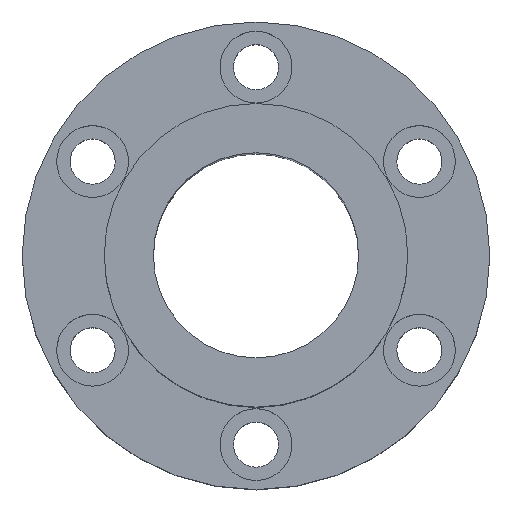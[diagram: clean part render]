
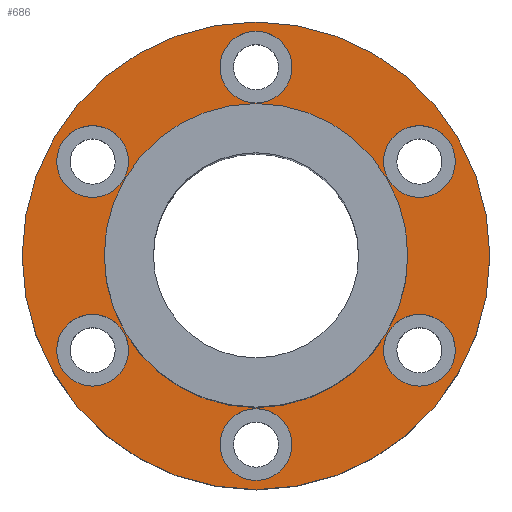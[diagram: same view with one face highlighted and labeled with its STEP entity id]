
A CAD part, top view. The second image highlights one B-rep face of the part: STEP entity #686.
In plain terms, the highlighted planar face has unit normal (0, 0, 1).
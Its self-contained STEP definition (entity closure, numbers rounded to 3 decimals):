
#1=CARTESIAN_POINT('',(0.,0.,22.5));
#2=DIRECTION('',(0.,0.,1.));
#3=DIRECTION('',(1.,0.,0.));
#4=AXIS2_PLACEMENT_3D('',#1,#2,#3);
#6=CARTESIAN_POINT('',(0.,0.,22.5));
#7=DIRECTION('',(0.,0.,1.));
#8=DIRECTION('',(-1.,0.,0.));
#9=AXIS2_PLACEMENT_3D('',#6,#7,#8);
#11=CARTESIAN_POINT('',(39.837,-23.,22.5));
#12=DIRECTION('',(0.,0.,-1.));
#13=DIRECTION('',(-0.5,-0.866,0.));
#14=AXIS2_PLACEMENT_3D('',#11,#12,#13);
#16=CARTESIAN_POINT('',(39.837,-23.,22.5));
#17=DIRECTION('',(0.,0.,-1.));
#18=DIRECTION('',(0.5,0.866,0.));
#19=AXIS2_PLACEMENT_3D('',#16,#17,#18);
#21=CARTESIAN_POINT('',(-39.837,-23.,22.5));
#22=DIRECTION('',(0.,0.,-1.));
#23=DIRECTION('',(-0.5,0.866,0.));
#24=AXIS2_PLACEMENT_3D('',#21,#22,#23);
#26=CARTESIAN_POINT('',(-39.837,-23.,22.5));
#27=DIRECTION('',(0.,0.,-1.));
#28=DIRECTION('',(0.5,-0.866,0.));
#29=AXIS2_PLACEMENT_3D('',#26,#27,#28);
#31=CARTESIAN_POINT('',(0.,46.,22.5));
#32=DIRECTION('',(0.,0.,-1.));
#33=DIRECTION('',(1.,0.,0.));
#34=AXIS2_PLACEMENT_3D('',#31,#32,#33);
#36=CARTESIAN_POINT('',(0.,46.,22.5));
#37=DIRECTION('',(0.,0.,-1.));
#38=DIRECTION('',(-1.,0.,0.));
#39=AXIS2_PLACEMENT_3D('',#36,#37,#38);
#41=CARTESIAN_POINT('',(0.,0.,22.5));
#42=DIRECTION('',(0.,0.,-1.));
#43=DIRECTION('',(1.,0.,0.));
#44=AXIS2_PLACEMENT_3D('',#41,#42,#43);
#46=CARTESIAN_POINT('',(0.,0.,22.5));
#47=DIRECTION('',(0.,0.,-1.));
#48=DIRECTION('',(-1.,0.,0.));
#49=AXIS2_PLACEMENT_3D('',#46,#47,#48);
#51=CARTESIAN_POINT('',(-39.837,23.,22.5));
#52=DIRECTION('',(0.,0.,-1.));
#53=DIRECTION('',(0.5,0.866,0.));
#54=AXIS2_PLACEMENT_3D('',#51,#52,#53);
#56=CARTESIAN_POINT('',(-39.837,23.,22.5));
#57=DIRECTION('',(0.,0.,-1.));
#58=DIRECTION('',(-0.5,-0.866,0.));
#59=AXIS2_PLACEMENT_3D('',#56,#57,#58);
#61=CARTESIAN_POINT('',(0.,-46.,22.5));
#62=DIRECTION('',(0.,0.,-1.));
#63=DIRECTION('',(-1.,0.,0.));
#64=AXIS2_PLACEMENT_3D('',#61,#62,#63);
#66=CARTESIAN_POINT('',(0.,-46.,22.5));
#67=DIRECTION('',(0.,0.,-1.));
#68=DIRECTION('',(1.,0.,0.));
#69=AXIS2_PLACEMENT_3D('',#66,#67,#68);
#71=CARTESIAN_POINT('',(39.837,23.,22.5));
#72=DIRECTION('',(0.,0.,-1.));
#73=DIRECTION('',(0.5,-0.866,0.));
#74=AXIS2_PLACEMENT_3D('',#71,#72,#73);
#76=CARTESIAN_POINT('',(39.837,23.,22.5));
#77=DIRECTION('',(0.,0.,-1.));
#78=DIRECTION('',(-0.5,0.866,0.));
#79=AXIS2_PLACEMENT_3D('',#76,#77,#78);
#561=CARTESIAN_POINT('',(-57.,0.,22.5));
#563=VERTEX_POINT('',#561);
#565=CARTESIAN_POINT('',(57.,0.,22.5));
#567=VERTEX_POINT('',#565);
#569=CARTESIAN_POINT('',(8.75,46.,22.5));
#571=VERTEX_POINT('',#569);
#573=CARTESIAN_POINT('',(-8.75,46.,22.5));
#575=VERTEX_POINT('',#573);
#577=CARTESIAN_POINT('',(-35.462,30.578,22.5));
#579=VERTEX_POINT('',#577);
#581=CARTESIAN_POINT('',(-44.212,15.422,22.5));
#583=VERTEX_POINT('',#581);
#585=CARTESIAN_POINT('',(-44.212,-15.422,22.5));
#587=VERTEX_POINT('',#585);
#589=CARTESIAN_POINT('',(-35.462,-30.578,22.5));
#591=VERTEX_POINT('',#589);
#593=CARTESIAN_POINT('',(-8.75,-46.,22.5));
#595=VERTEX_POINT('',#593);
#597=CARTESIAN_POINT('',(8.75,-46.,22.5));
#599=VERTEX_POINT('',#597);
#601=CARTESIAN_POINT('',(35.462,-30.578,22.5));
#603=VERTEX_POINT('',#601);
#605=CARTESIAN_POINT('',(44.212,-15.422,22.5));
#607=VERTEX_POINT('',#605);
#609=CARTESIAN_POINT('',(44.212,15.422,22.5));
#611=VERTEX_POINT('',#609);
#613=CARTESIAN_POINT('',(35.462,30.578,22.5));
#615=VERTEX_POINT('',#613);
#626=CARTESIAN_POINT('',(37.,0.,22.5));
#628=VERTEX_POINT('',#626);
#630=CARTESIAN_POINT('',(-37.,0.,22.5));
#632=VERTEX_POINT('',#630);
#633=CARTESIAN_POINT('',(0.,0.,22.5));
#634=DIRECTION('',(0.,0.,1.));
#635=DIRECTION('',(1.,0.,0.));
#636=AXIS2_PLACEMENT_3D('',#633,#634,#635);
#637=PLANE('',#636);
#639=ORIENTED_EDGE('',*,*,#638,.F.);
#641=ORIENTED_EDGE('',*,*,#640,.F.);
#642=EDGE_LOOP('',(#639,#641));
#643=FACE_OUTER_BOUND('',#642,.F.);
#645=ORIENTED_EDGE('',*,*,#644,.F.);
#647=ORIENTED_EDGE('',*,*,#646,.F.);
#648=EDGE_LOOP('',(#645,#647));
#649=FACE_BOUND('',#648,.F.);
#651=ORIENTED_EDGE('',*,*,#650,.F.);
#653=ORIENTED_EDGE('',*,*,#652,.F.);
#654=EDGE_LOOP('',(#651,#653));
#655=FACE_BOUND('',#654,.F.);
#657=ORIENTED_EDGE('',*,*,#656,.F.);
#659=ORIENTED_EDGE('',*,*,#658,.F.);
#660=EDGE_LOOP('',(#657,#659));
#661=FACE_BOUND('',#660,.F.);
#663=ORIENTED_EDGE('',*,*,#662,.F.);
#665=ORIENTED_EDGE('',*,*,#664,.F.);
#666=EDGE_LOOP('',(#663,#665));
#667=FACE_BOUND('',#666,.F.);
#669=ORIENTED_EDGE('',*,*,#668,.F.);
#671=ORIENTED_EDGE('',*,*,#670,.F.);
#672=EDGE_LOOP('',(#669,#671));
#673=FACE_BOUND('',#672,.F.);
#675=ORIENTED_EDGE('',*,*,#674,.F.);
#677=ORIENTED_EDGE('',*,*,#676,.F.);
#678=EDGE_LOOP('',(#675,#677));
#679=FACE_BOUND('',#678,.F.);
#681=ORIENTED_EDGE('',*,*,#680,.F.);
#683=ORIENTED_EDGE('',*,*,#682,.F.);
#684=EDGE_LOOP('',(#681,#683));
#685=FACE_BOUND('',#684,.F.);
#686=ADVANCED_FACE('',(#643,#649,#655,#661,#667,#673,#679,#685),#637,.T.);
#5=CIRCLE('',#4,57.);
#10=CIRCLE('',#9,57.);
#15=CIRCLE('',#14,8.75);
#20=CIRCLE('',#19,8.75);
#25=CIRCLE('',#24,8.75);
#30=CIRCLE('',#29,8.75);
#35=CIRCLE('',#34,8.75);
#40=CIRCLE('',#39,8.75);
#45=CIRCLE('',#44,37.);
#50=CIRCLE('',#49,37.);
#55=CIRCLE('',#54,8.75);
#60=CIRCLE('',#59,8.75);
#65=CIRCLE('',#64,8.75);
#70=CIRCLE('',#69,8.75);
#75=CIRCLE('',#74,8.75);
#80=CIRCLE('',#79,8.75);
#638=EDGE_CURVE('',#567,#563,#5,.T.);
#640=EDGE_CURVE('',#563,#567,#10,.T.);
#644=EDGE_CURVE('',#603,#607,#15,.T.);
#646=EDGE_CURVE('',#607,#603,#20,.T.);
#650=EDGE_CURVE('',#587,#591,#25,.T.);
#652=EDGE_CURVE('',#591,#587,#30,.T.);
#656=EDGE_CURVE('',#571,#575,#35,.T.);
#658=EDGE_CURVE('',#575,#571,#40,.T.);
#662=EDGE_CURVE('',#628,#632,#45,.T.);
#664=EDGE_CURVE('',#632,#628,#50,.T.);
#668=EDGE_CURVE('',#579,#583,#55,.T.);
#670=EDGE_CURVE('',#583,#579,#60,.T.);
#674=EDGE_CURVE('',#595,#599,#65,.T.);
#676=EDGE_CURVE('',#599,#595,#70,.T.);
#680=EDGE_CURVE('',#611,#615,#75,.T.);
#682=EDGE_CURVE('',#615,#611,#80,.T.);
